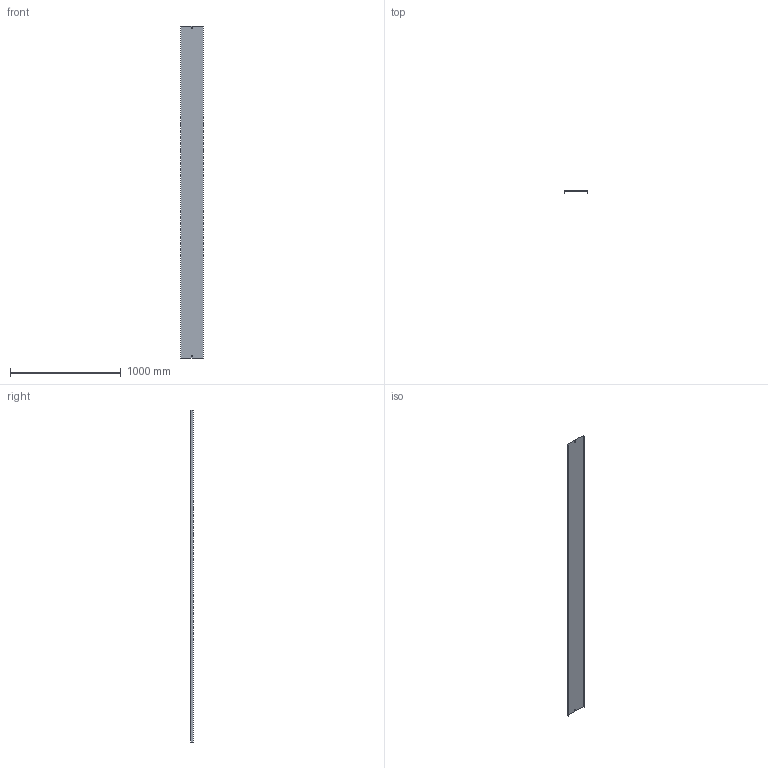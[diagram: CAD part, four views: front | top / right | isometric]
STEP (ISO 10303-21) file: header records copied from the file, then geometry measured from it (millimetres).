
FILE_DESCRIPTION (( 'STEP AP214' ), '1' );
FILE_NAME ('05N3R200.step', '2025-02-21T12:39:06', ( '' ), ( '' ), 'SwSTEP 2.0', 'SolidWorks 2023', '' );
FILE_SCHEMA (( 'AUTOMOTIVE_DESIGN' ));
Length unit declared in the file: millimetre
Products named in the file (1): 05N3R200
Bounding box: 203 x 20 x 3000 mm (x, y, z)
Volume: 1079824.5 mm3; surface area: 1449579 mm2
Topology: 1 solids, 1 shells, 18 faces, 48 edges, 32 vertices
Faces by surface type: plane 18
Entity records: 583 total; most frequent: CARTESIAN_POINT 99, ORIENTED_EDGE 96, DIRECTION 86, LINE 48, EDGE_CURVE 48, VECTOR 48, VERTEX_POINT 32, EDGE_LOOP 22
